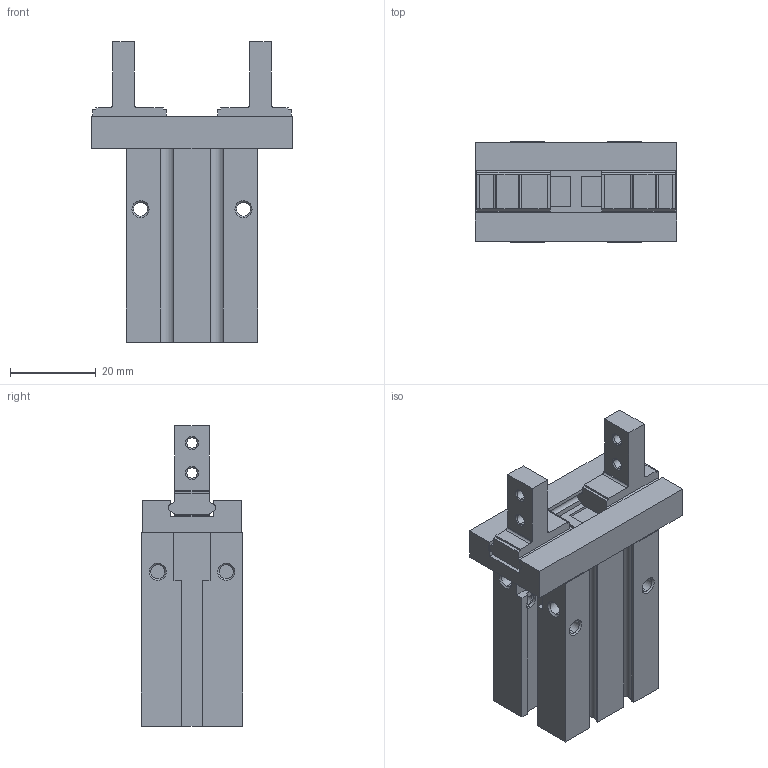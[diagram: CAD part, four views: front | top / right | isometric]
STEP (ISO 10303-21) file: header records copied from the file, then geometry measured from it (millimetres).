
FILE_DESCRIPTION (( 'STEP AP214' ), '1' );
FILE_NAME ('MHZL2_16D_26_9_0_.STEP', '2025-11-03T09:45:06', ( 'jocundjade@hotmail.com' ), ( 'HP Inc.' ), 'SwSTEP 2.0', 'SolidWorks 2025', '' );
FILE_SCHEMA (( 'AUTOMOTIVE_DESIGN' ));
Length unit declared in the file: millimetre
Products named in the file (3): MHZL2_16D_26_9_0__6; MHZL2_16D_26_9_0_; MHZL2_16D_26_9_0__3
Assembly tree (3 placements, depth 2):
  MHZL2_16D_26_9_0_
    MHZL2_16D_26_9_0__3  x2
    MHZL2_16D_26_9_0__6
Bounding box: 47 x 23.6 x 70 mm (x, y, z)
Volume: 34524 mm3; surface area: 14055.1 mm2
Topology: 3 solids, 3 shells, 250 faces, 644 edges, 412 vertices
Faces by surface type: plane 152, cylinder 54, cone 44
Entity records: 6226 total; most frequent: CARTESIAN_POINT 1085, DIRECTION 1066, ORIENTED_EDGE 1040, EDGE_CURVE 520, LINE 376, VECTOR 376, AXIS2_PLACEMENT_3D 345, VERTEX_POINT 332
